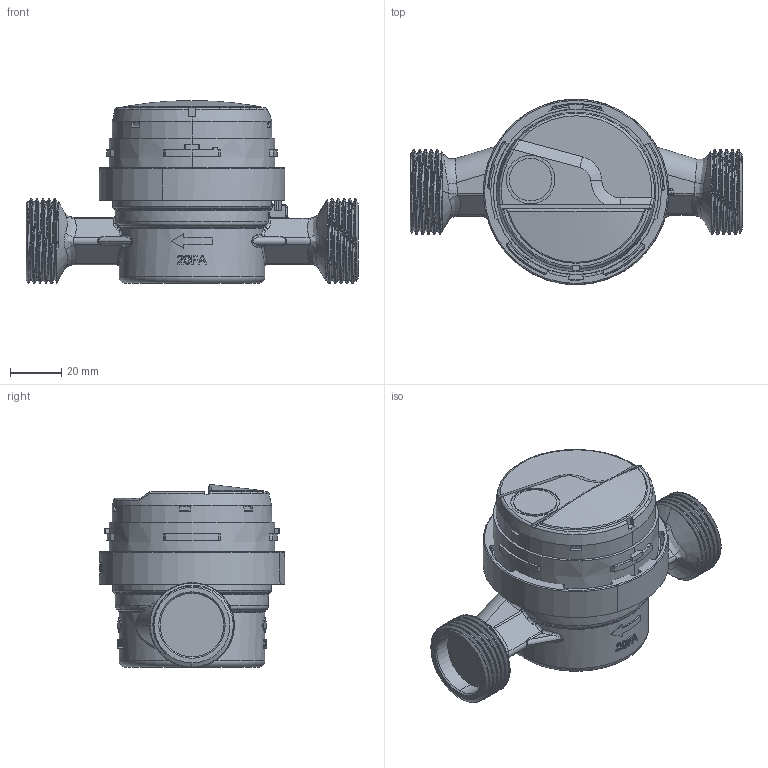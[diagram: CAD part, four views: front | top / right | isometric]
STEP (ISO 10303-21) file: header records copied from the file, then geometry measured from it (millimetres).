
FILE_DESCRIPTION (( 'STEP AP214' ), '1' );
FILE_NAME ('JS-4-07.STEP', '2025-06-06T07:54:31', ( '' ), ( '' ), 'SwSTEP 2.0', 'SolidWorks 2019', '' );
FILE_SCHEMA (( 'AUTOMOTIVE_DESIGN' ));
Length unit declared in the file: millimetre
Products named in the file (9): JS90-4-07.STEP; JS-4-07; Assembly-1108.STEP; szklanka.STEP; 9060-000022.STEP; js4.STEP; 9004-750201.STEP; Liczyd_o.STEP; 9004-750202_zagi_ta.STEP
Assembly tree (8 placements, depth 4):
  JS-4-07
    JS90-4-07.STEP
      Assembly-1108.STEP
        9004-750201.STEP
        9004-750202_zagi_ta.STEP
      js4.STEP
      Liczyd_o.STEP
      szklanka.STEP
      9060-000022.STEP
Bounding box: 130 x 72.71 x 71.57 mm (x, y, z)
Volume: 223754.9 mm3; surface area: 67570.2 mm2
Topology: 7 solids, 16 shells, 2014 faces, 5675 edges, 3749 vertices
Faces by surface type: plane 844, bspline 470, cylinder 468, cone 136, torus 78, sphere 18
Entity records: 122389 total; most frequent: CARTESIAN_POINT 68368, ORIENTED_EDGE 11320, DIRECTION 8294, EDGE_CURVE 5660, VERTEX_POINT 3749, AXIS2_PLACEMENT_3D 3030, VECTOR 2234, LINE 2234
